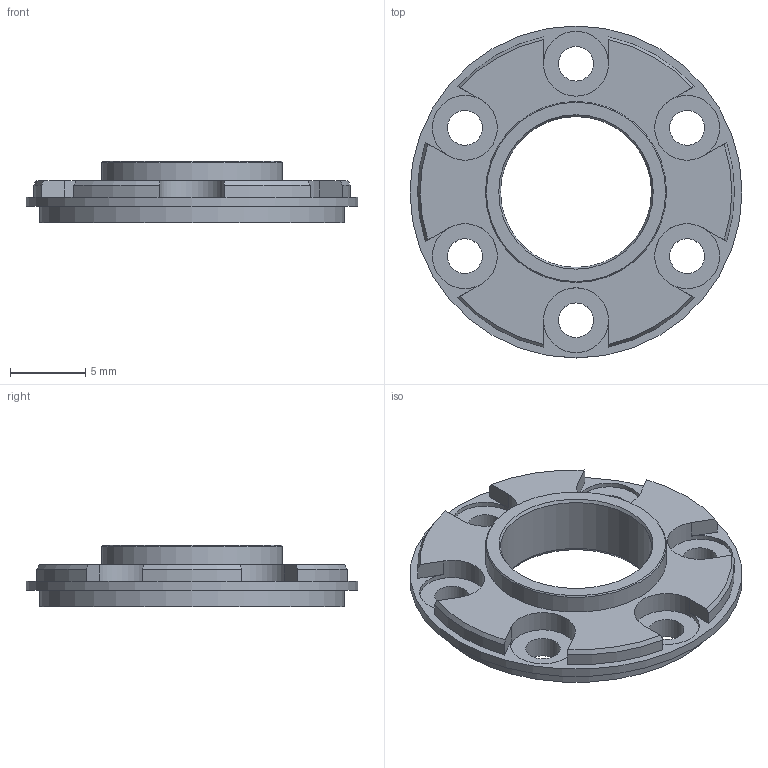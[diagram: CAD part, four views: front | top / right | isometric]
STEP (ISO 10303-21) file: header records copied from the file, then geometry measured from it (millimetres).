
FILE_DESCRIPTION(/* description */ (''),/* implementation_level */ '2;1');
FILE_NAME(/* name */ '22-GPT_flange_d.stp',/* time_stamp */ '2019-07-23T09:12:34+02:00',/* author */ ('DR. FRITZ FAULHABER GmbH & Co. KG'),/* organization */ ('DR. FRITZ FAULHABER GmbH & Co. KG'),/* preprocessor_version */ 'ST-DEVELOPER v16.7',/* originating_system */ 'SIEMENS PLM Software NX 12.0',/* authorisation */ '');
FILE_SCHEMA (('AUTOMOTIVE_DESIGN { 1 0 10303 214 3 1 1 1 }'));
Length unit declared in the file: millimetre
Products named in the file (1): F0011311300-B-416.4923.06
Bounding box: 22 x 22 x 4.1 mm (x, y, z)
Volume: 621.1 mm3; surface area: 1027.1 mm2
Topology: 1 solids, 1 shells, 54 faces, 151 edges, 102 vertices
Faces by surface type: plane 23, cylinder 22, cone 9
Full cylindrical faces by diameter (mm): 2.3 x6, 4.3 x6, 10 x1, 12 x1, 20.2 x1, 22 x1
Entity records: 1618 total; most frequent: CARTESIAN_POINT 299, DIRECTION 276, ORIENTED_EDGE 238, EDGE_CURVE 119, AXIS2_PLACEMENT_3D 114, EDGE_LOOP 90, VERTEX_POINT 89, FACE_BOUND 66
